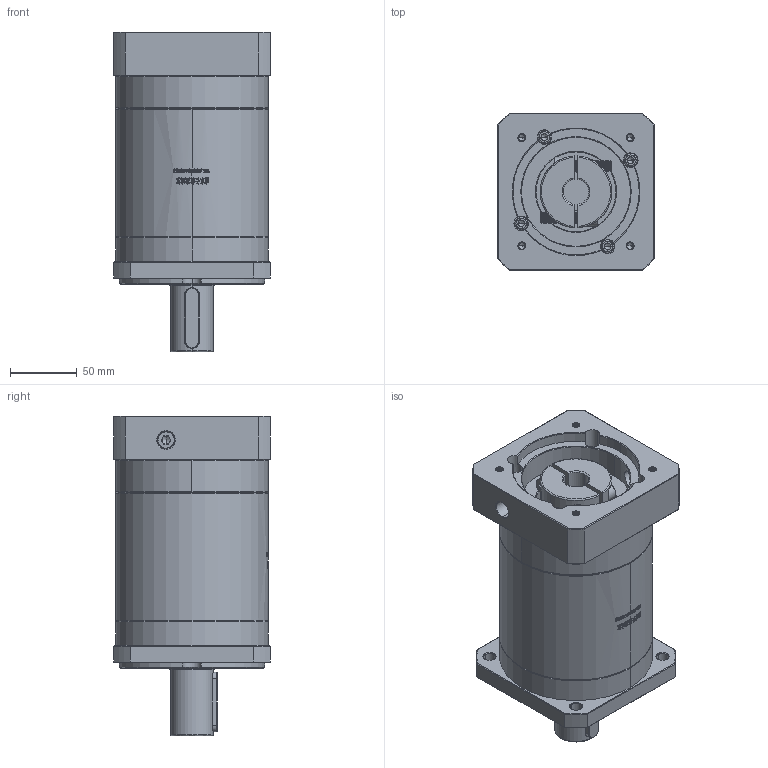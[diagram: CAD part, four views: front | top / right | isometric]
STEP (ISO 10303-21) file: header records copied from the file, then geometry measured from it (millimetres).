
FILE_DESCRIPTION (( 'STEP AP214' ), '1' );
FILE_NAME ('ZF120A-D32-L3-19-95-115-M6.step', '2023-03-07T09:34:52', ( '' ), ( '' ), 'SwSTEP 2.0', 'SolidWorks 2016', '' );
FILE_SCHEMA (( 'AUTOMOTIVE_DESIGN' ));
Length unit declared in the file: millimetre
Products named in the file (1): ZF120A-D32-L3-19-95-115-M6
Bounding box: 118 x 118 x 240.5 mm (x, y, z)
Volume: 1972359.2 mm3; surface area: 179251 mm2
Topology: 6 solids, 6 shells, 1960 faces, 5152 edges, 3286 vertices
Faces by surface type: plane 857, cylinder 421, bspline 341, cone 341
Entity records: 107171 total; most frequent: CARTESIAN_POINT 41053, ORIENTED_EDGE 10244, DIRECTION 7959, EDGE_CURVE 5122, VERTEX_POINT 3286, VECTOR 2751, LINE 2751, AXIS2_PLACEMENT_3D 2604
